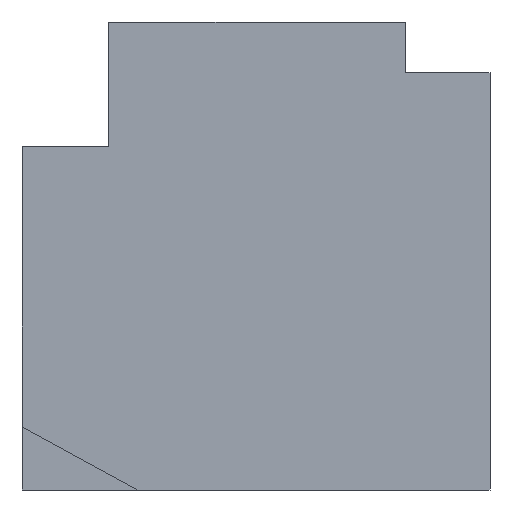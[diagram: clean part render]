
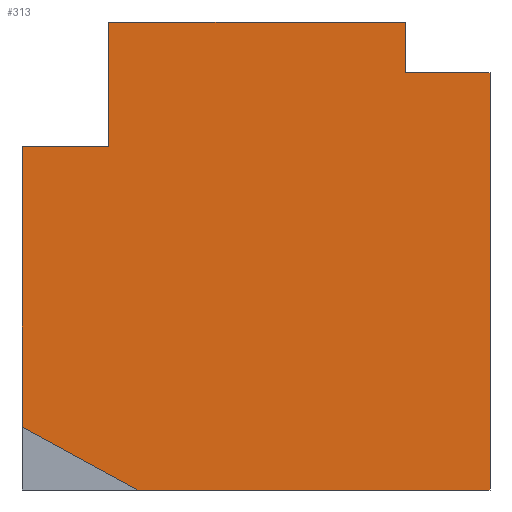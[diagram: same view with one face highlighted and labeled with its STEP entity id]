
A CAD part, left-side view. The second image highlights one B-rep face of the part: STEP entity #313.
In plain terms, the highlighted planar face has unit normal (-1, 0, 0).
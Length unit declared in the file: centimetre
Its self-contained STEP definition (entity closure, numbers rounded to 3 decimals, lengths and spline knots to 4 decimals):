
#1 = CARTESIAN_POINT ( 'NONE',  ( 0., 0., 891.0306 ) ) ;
#17 = VERTEX_POINT ( 'NONE', #837 ) ;
#28 = DIRECTION ( 'NONE',  ( 0., 0., -1. ) ) ;
#49 = CARTESIAN_POINT ( 'NONE',  ( 0., 814.6845, 733.3796 ) ) ;
#90 = CARTESIAN_POINT ( 'NONE',  ( 0., 814.6845, 733.3796 ) ) ;
#97 = CARTESIAN_POINT ( 'NONE',  ( 0., 753.1792, 0. ) ) ;
#98 = VECTOR ( 'NONE', #449, 100. ) ;
#99 = VECTOR ( 'NONE', #344, 100. ) ;
#109 = CARTESIAN_POINT ( 'NONE',  ( 0., 1000., 1000. ) ) ;
#113 = CARTESIAN_POINT ( 'NONE',  ( 0., 0., 0. ) ) ;
#135 = DIRECTION ( 'NONE',  ( 0., -1., 0. ) ) ;
#139 = LINE ( 'NONE', #496, #389 ) ;
#151 = DIRECTION ( 'NONE',  ( 0., -1., 0. ) ) ;
#162 = VERTEX_POINT ( 'NONE', #453 ) ;
#171 = DIRECTION ( 'NONE',  ( 1., 0., 0. ) ) ;
#188 = DIRECTION ( 'NONE',  ( 0., 0., 1. ) ) ;
#206 = VECTOR ( 'NONE', #788, 100. ) ;
#227 = ORIENTED_EDGE ( 'NONE', *, *, #251, .F. ) ;
#239 = ORIENTED_EDGE ( 'NONE', *, *, #814, .T. ) ;
#251 = EDGE_CURVE ( 'NONE', #885, #780, #925, .T. ) ;
#260 = CARTESIAN_POINT ( 'NONE',  ( 0., 1000., 1000. ) ) ;
#286 = LINE ( 'NONE', #859, #206 ) ;
#313 = ADVANCED_FACE ( 'NONE', ( #390 ), #819, .F. ) ;
#320 = CARTESIAN_POINT ( 'NONE',  ( 0., 0., 1000. ) ) ;
#334 = VERTEX_POINT ( 'NONE', #97 ) ;
#339 = LINE ( 'NONE', #411, #717 ) ;
#344 = DIRECTION ( 'NONE',  ( 0., -1., 0. ) ) ;
#349 = VERTEX_POINT ( 'NONE', #602 ) ;
#350 = LINE ( 'NONE', #1, #884 ) ;
#351 = VERTEX_POINT ( 'NONE', #893 ) ;
#389 = VECTOR ( 'NONE', #151, 100. ) ;
#390 = FACE_OUTER_BOUND ( 'NONE', #408, .T. ) ;
#395 = CARTESIAN_POINT ( 'NONE',  ( 0., 814.6845, 1000. ) ) ;
#399 = CARTESIAN_POINT ( 'NONE',  ( 0., 180.5809, 891.0306 ) ) ;
#408 = EDGE_LOOP ( 'NONE', ( #700, #492, #695, #477, #239, #935, #547, #227, #804 ) ) ;
#411 = CARTESIAN_POINT ( 'NONE',  ( 0., 753.1792, 0. ) ) ;
#432 = AXIS2_PLACEMENT_3D ( 'NONE', #109, #171, #460 ) ;
#449 = DIRECTION ( 'NONE',  ( 0., 0., 1. ) ) ;
#453 = CARTESIAN_POINT ( 'NONE',  ( 0., 0., 891.0306 ) ) ;
#460 = DIRECTION ( 'NONE',  ( 0., 0., -1. ) ) ;
#472 = VERTEX_POINT ( 'NONE', #610 ) ;
#477 = ORIENTED_EDGE ( 'NONE', *, *, #741, .F. ) ;
#492 = ORIENTED_EDGE ( 'NONE', *, *, #882, .F. ) ;
#496 = CARTESIAN_POINT ( 'NONE',  ( 0., 1000., 0. ) ) ;
#527 = VECTOR ( 'NONE', #135, 100. ) ;
#541 = DIRECTION ( 'NONE',  ( 0., 1., 0. ) ) ;
#547 = ORIENTED_EDGE ( 'NONE', *, *, #794, .F. ) ;
#602 = CARTESIAN_POINT ( 'NONE',  ( 0., 1000., 733.3796 ) ) ;
#605 = LINE ( 'NONE', #320, #822 ) ;
#607 = EDGE_CURVE ( 'NONE', #334, #775, #139, .T. ) ;
#610 = CARTESIAN_POINT ( 'NONE',  ( 0., 180.5809, 1000. ) ) ;
#695 = ORIENTED_EDGE ( 'NONE', *, *, #607, .T. ) ;
#699 = CARTESIAN_POINT ( 'NONE',  ( 0., 814.6845, 733.3796 ) ) ;
#700 = ORIENTED_EDGE ( 'NONE', *, *, #816, .T. ) ;
#717 = VECTOR ( 'NONE', #846, 100. ) ;
#741 = EDGE_CURVE ( 'NONE', #162, #775, #605, .T. ) ;
#751 = EDGE_CURVE ( 'NONE', #17, #472, #902, .T. ) ;
#771 = LINE ( 'NONE', #699, #99 ) ;
#775 = VERTEX_POINT ( 'NONE', #113 ) ;
#779 = LINE ( 'NONE', #260, #527 ) ;
#780 = VERTEX_POINT ( 'NONE', #395 ) ;
#788 = DIRECTION ( 'NONE',  ( 0., 0., -1. ) ) ;
#794 = EDGE_CURVE ( 'NONE', #780, #472, #779, .T. ) ;
#798 = VECTOR ( 'NONE', #188, 100. ) ;
#804 = ORIENTED_EDGE ( 'NONE', *, *, #908, .F. ) ;
#814 = EDGE_CURVE ( 'NONE', #162, #17, #350, .T. ) ;
#816 = EDGE_CURVE ( 'NONE', #349, #351, #286, .T. ) ;
#819 = PLANE ( 'NONE',  #432 ) ;
#822 = VECTOR ( 'NONE', #28, 100. ) ;
#837 = CARTESIAN_POINT ( 'NONE',  ( 0., 180.5809, 891.0306 ) ) ;
#846 = DIRECTION ( 'NONE',  ( 0., 0.878, 0.478 ) ) ;
#859 = CARTESIAN_POINT ( 'NONE',  ( 0., 1000., 1000. ) ) ;
#882 = EDGE_CURVE ( 'NONE', #334, #351, #339, .T. ) ;
#884 = VECTOR ( 'NONE', #541, 100. ) ;
#885 = VERTEX_POINT ( 'NONE', #49 ) ;
#893 = CARTESIAN_POINT ( 'NONE',  ( 0., 1000., 134.3509 ) ) ;
#902 = LINE ( 'NONE', #399, #798 ) ;
#908 = EDGE_CURVE ( 'NONE', #349, #885, #771, .T. ) ;
#925 = LINE ( 'NONE', #90, #98 ) ;
#935 = ORIENTED_EDGE ( 'NONE', *, *, #751, .T. ) ;
